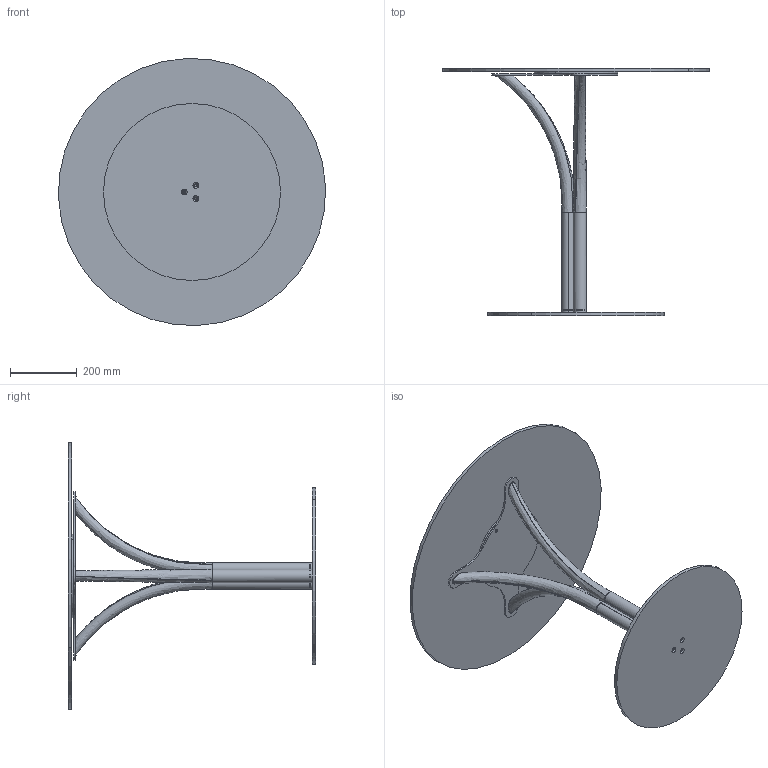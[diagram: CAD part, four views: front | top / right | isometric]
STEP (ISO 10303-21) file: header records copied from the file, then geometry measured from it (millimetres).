
FILE_DESCRIPTION (( 'STEP AP203' ), '1' );
FILE_NAME ('DB20G.STEP', '2024-08-08T08:16:05', ( '' ), ( '' ), 'SwSTEP 2.0', 'SolidWorks 2022', '' );
FILE_SCHEMA (( 'CONFIG_CONTROL_DESIGN' ));
Length unit declared in the file: millimetre
Products named in the file (8): DOD000000_02-00-Gamba curvata per DODO''_Default<A macchina>; P0000003-00-STAFFA DI FISSAGGIO DIAMETRO 250_P0000003-250mm normale; DOD000000-01-DODO BASE ; DB20G; DOD000000_01-01-poggiapiano; CXXCRXX-00-Piani Rotondi in Cristallo CON PIASTRA_C02P PIANO CRISTALLO D.80cm; C1XCRMXX-00-piani Rotondi Cristallo_C02 D.80cm; CBS000000BAS-00-BISTRO PIASTRA INFERIORE_D.530
Assembly tree (9 placements, depth 3):
  DB20G
    CBS000000BAS-00-BISTRO PIASTRA INFERIORE_D.530
    DOD000000-01-DODO BASE 
      DOD000000_02-00-Gamba curvata per DODO''_Default<A macchina>  x3
      DOD000000_01-01-poggiapiano
    CXXCRXX-00-Piani Rotondi in Cristallo CON PIASTRA_C02P PIANO CRISTALLO D.80cm
      C1XCRMXX-00-piani Rotondi Cristallo_C02 D.80cm
      P0000003-00-STAFFA DI FISSAGGIO DIAMETRO 250_P0000003-250mm normale
Bounding box: 799.2 x 741 x 799.2 mm (x, y, z)
Volume: 8415529.3 mm3; surface area: 2268665.1 mm2
Topology: 10 solids, 10 shells, 107 faces, 255 edges, 168 vertices
Faces by surface type: cylinder 63, plane 26, bspline 12, cone 6
Entity records: 6469 total; most frequent: CARTESIAN_POINT 3692, DIRECTION 433, ORIENTED_EDGE 366, EDGE_CURVE 183, AXIS2_PLACEMENT_3D 181, VERTEX_POINT 120, EDGE_LOOP 99, CIRCLE 96
